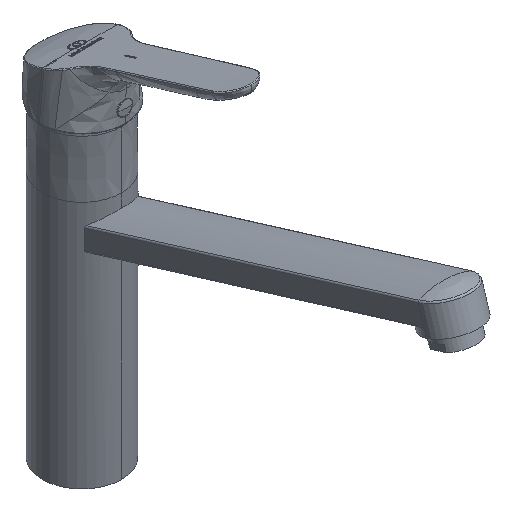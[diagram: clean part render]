
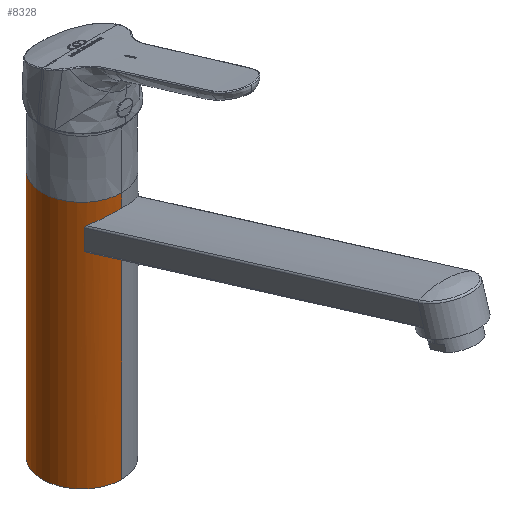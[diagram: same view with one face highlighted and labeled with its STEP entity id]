
A CAD part, isometric view. The second image highlights one B-rep face of the part: STEP entity #8328.
In plain terms, the highlighted cylindrical face has radius 23.5 mm (diameter 47 mm), a partial arc.
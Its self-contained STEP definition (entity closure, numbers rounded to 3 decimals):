
#9=CARTESIAN_POINT('',(0.,-23.5,119.5));
#11=CARTESIAN_POINT('',(0.,-23.5,119.5));
#12=CARTESIAN_POINT('',(-0.896,-23.5,119.5));
#13=CARTESIAN_POINT('',(-2.691,-23.398,119.541));
#14=CARTESIAN_POINT('',(-5.386,-22.929,119.725));
#15=CARTESIAN_POINT('',(-8.032,-22.143,120.025));
#16=CARTESIAN_POINT('',(-10.604,-21.034,120.43));
#17=CARTESIAN_POINT('',(-13.039,-19.619,120.913));
#18=CARTESIAN_POINT('',(-14.557,-18.474,121.268));
#19=CARTESIAN_POINT('',(-15.287,-17.848,121.448));
#78=CARTESIAN_POINT('',(0.,0.,147.));
#79=DIRECTION('',(0.,0.,1.));
#80=DIRECTION('',(0.,1.,0.));
#81=AXIS2_PLACEMENT_3D('',#78,#79,#80);
#83=DIRECTION('',(0.,0.,-1.));
#84=VECTOR('',#83,7.841);
#85=CARTESIAN_POINT('',(0.,-23.5,147.));
#86=LINE('',#85,#84);
#87=DIRECTION('',(0.,0.,1.));
#88=VECTOR('',#87,119.5);
#89=CARTESIAN_POINT('',(0.,-23.5,0.));
#90=LINE('',#89,#88);
#91=DIRECTION('',(0.,0.,-1.));
#92=VECTOR('',#91,147.);
#93=CARTESIAN_POINT('',(0.,23.5,147.));
#94=LINE('',#93,#92);
#95=CARTESIAN_POINT('',(0.,-23.5,139.159));
#123=CARTESIAN_POINT('',(-15.153,-17.962,135.007));
#124=CARTESIAN_POINT('',(-14.366,-18.626,135.471));
#125=CARTESIAN_POINT('',(-12.753,-19.81,136.325));
#126=CARTESIAN_POINT('',(-10.259,-21.204,137.368));
#127=CARTESIAN_POINT('',(-7.701,-22.257,138.179));
#128=CARTESIAN_POINT('',(-5.14,-22.982,138.747));
#129=CARTESIAN_POINT('',(-2.548,-23.409,139.087));
#130=CARTESIAN_POINT('',(-0.847,-23.5,139.159));
#131=CARTESIAN_POINT('',(0.,-23.5,139.159));
#209=CARTESIAN_POINT('',(-15.287,-17.848,121.448));
#210=CARTESIAN_POINT('',(-15.349,-17.795,121.463));
#211=CARTESIAN_POINT('',(-15.469,-17.691,121.508));
#212=CARTESIAN_POINT('',(-15.634,-17.546,121.631));
#213=CARTESIAN_POINT('',(-15.755,-17.437,121.797));
#214=CARTESIAN_POINT('',(-15.831,-17.367,121.996));
#215=CARTESIAN_POINT('',(-15.85,-17.35,122.154));
#216=CARTESIAN_POINT('',(-15.85,-17.35,122.236));
#223=DIRECTION('',(0.,0.,-1.));
#224=VECTOR('',#223,11.587);
#225=CARTESIAN_POINT('',(-15.85,-17.35,133.823));
#226=LINE('',#225,#224);
#251=CARTESIAN_POINT('',(-15.85,-17.35,133.823));
#252=CARTESIAN_POINT('',(-15.85,-17.35,133.891));
#253=CARTESIAN_POINT('',(-15.837,-17.362,134.032));
#254=CARTESIAN_POINT('',(-15.778,-17.415,134.251));
#255=CARTESIAN_POINT('',(-15.68,-17.504,134.467));
#256=CARTESIAN_POINT('',(-15.544,-17.625,134.672));
#257=CARTESIAN_POINT('',(-15.369,-17.778,134.858));
#258=CARTESIAN_POINT('',(-15.229,-17.898,134.962));
#259=CARTESIAN_POINT('',(-15.153,-17.962,135.007));
#836=CARTESIAN_POINT('',(0.,0.,0.));
#837=DIRECTION('',(0.,0.,1.));
#838=DIRECTION('',(0.,1.,0.));
#839=AXIS2_PLACEMENT_3D('',#836,#837,#838);
#7576=CARTESIAN_POINT('',(0.,23.5,0.));
#7577=CARTESIAN_POINT('',(0.,-23.5,0.));
#7578=VERTEX_POINT('',#7576);
#7579=VERTEX_POINT('',#7577);
#7751=VERTEX_POINT('',#9);
#7752=VERTEX_POINT('',#19);
#7757=VERTEX_POINT('',#95);
#7759=VERTEX_POINT('',#123);
#7760=CARTESIAN_POINT('',(-15.85,-17.35,133.823));
#7761=CARTESIAN_POINT('',(-15.85,-17.35,122.236));
#7762=VERTEX_POINT('',#7760);
#7763=VERTEX_POINT('',#7761);
#7764=CARTESIAN_POINT('',(0.,23.5,147.));
#7765=CARTESIAN_POINT('',(0.,-23.5,147.));
#7766=VERTEX_POINT('',#7764);
#7767=VERTEX_POINT('',#7765);
#8306=CARTESIAN_POINT('',(0.,0.,116.55));
#8307=DIRECTION('',(0.,0.,-1.));
#8308=DIRECTION('',(0.,1.,0.));
#8309=AXIS2_PLACEMENT_3D('',#8306,#8307,#8308);
#8310=CYLINDRICAL_SURFACE('',#8309,23.5);
#8311=ORIENTED_EDGE('',*,*,#8297,.T.);
#8312=ORIENTED_EDGE('',*,*,#8272,.T.);
#8314=ORIENTED_EDGE('',*,*,#8313,.F.);
#8316=ORIENTED_EDGE('',*,*,#8315,.F.);
#8318=ORIENTED_EDGE('',*,*,#8317,.T.);
#8320=ORIENTED_EDGE('',*,*,#8319,.F.);
#8321=ORIENTED_EDGE('',*,*,#8237,.F.);
#8322=ORIENTED_EDGE('',*,*,#8261,.F.);
#8324=ORIENTED_EDGE('',*,*,#8323,.F.);
#8325=ORIENTED_EDGE('',*,*,#8257,.F.);
#8326=EDGE_LOOP('',(#8311,#8312,#8314,#8316,#8318,#8320,#8321,#8322,#8324,
#8325));
#8327=FACE_OUTER_BOUND('',#8326,.F.);
#8328=ADVANCED_FACE('',(#8327),#8310,.T.);
#20=B_SPLINE_CURVE_WITH_KNOTS('',3,(#11,#12,#13,#14,#15,#16,#17,#18,#19),
.UNSPECIFIED.,.F.,.F.,(4,1,1,1,1,1,4),(0.,0.167,0.333,
0.5,0.667,0.833,1.),.UNSPECIFIED.);
#82=CIRCLE('',#81,23.5);
#132=B_SPLINE_CURVE_WITH_KNOTS('',3,(#123,#124,#125,#126,#127,#128,#129,#130,
#131),.UNSPECIFIED.,.F.,.F.,(4,1,1,1,1,1,4),(0.,0.167,
0.333,0.5,0.667,0.833,1.),
.UNSPECIFIED.);
#217=B_SPLINE_CURVE_WITH_KNOTS('',3,(#209,#210,#211,#212,#213,#214,#215,#216),
.UNSPECIFIED.,.F.,.F.,(4,1,1,1,1,4),(0.,0.2,0.4,0.6,0.8,1.),
.UNSPECIFIED.);
#260=B_SPLINE_CURVE_WITH_KNOTS('',3,(#251,#252,#253,#254,#255,#256,#257,#258,
#259),.UNSPECIFIED.,.F.,.F.,(4,1,1,1,1,1,4),(0.,0.167,
0.333,0.5,0.667,0.833,1.),
.UNSPECIFIED.);
#840=CIRCLE('',#839,23.5);
#8237=EDGE_CURVE('',#7751,#7752,#20,.T.);
#8257=EDGE_CURVE('',#7766,#7578,#94,.T.);
#8261=EDGE_CURVE('',#7579,#7751,#90,.T.);
#8272=EDGE_CURVE('',#7767,#7757,#86,.T.);
#8297=EDGE_CURVE('',#7766,#7767,#82,.T.);
#8313=EDGE_CURVE('',#7759,#7757,#132,.T.);
#8315=EDGE_CURVE('',#7762,#7759,#260,.T.);
#8317=EDGE_CURVE('',#7762,#7763,#226,.T.);
#8319=EDGE_CURVE('',#7752,#7763,#217,.T.);
#8323=EDGE_CURVE('',#7578,#7579,#840,.T.);
